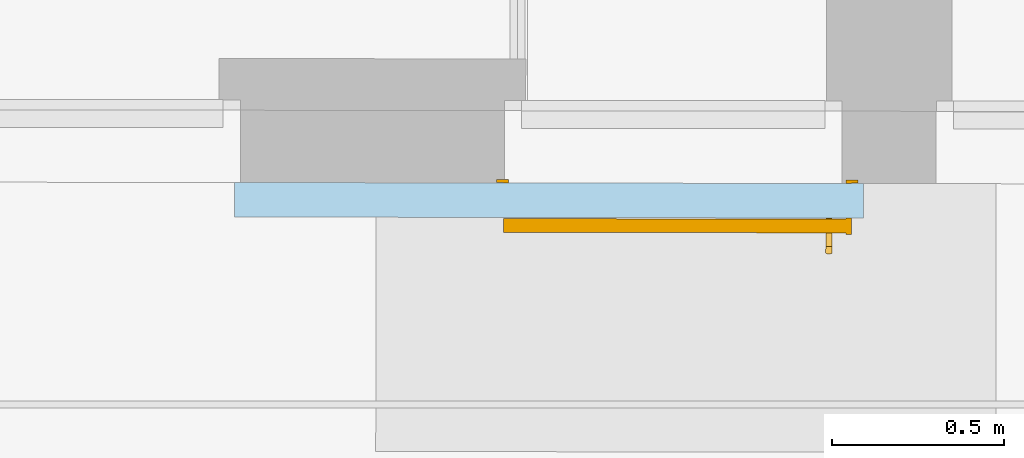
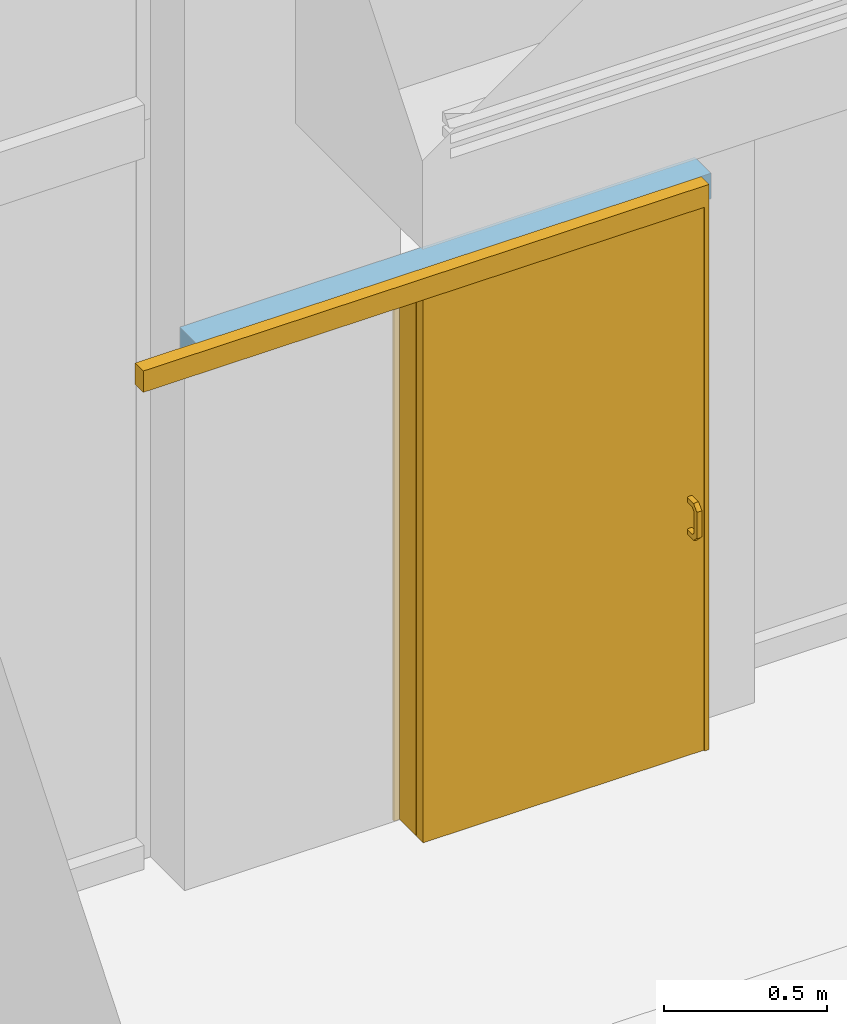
# One storey, part 47 of 128: 1 door, 1 opening, plus 1 element that does not belong to this part.
"""IFC2X3 building model written with IfcOpenShell, lengths in metres."""

from ifc_helpers import new_model, entity, si_unit, converted_unit, derived_unit, direction, frame, frame_2d, origin, place, context, subcontext, project, spatial, rectangle, extrude, faceted_brep, source, transform, mapped, material, material_list, layer, layer_set, layer_usage, type_object, type_shapes, element, fill, save


model = new_model("IFC2X3")

# Units and contexts
model_context = context("Model", 3, precision=1e-05, world=origin(), true_north=direction((6.123031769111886e-17, 1.0)))
body_context = subcontext(model_context, "Body", "Model", "MODEL_VIEW")
ifc_project = project(units=[si_unit("LENGTHUNIT", "METRE"), si_unit("AREAUNIT", "SQUARE_METRE"), converted_unit("PLANEANGLEUNIT", "DEGREE", entity("IfcPlaneAngleMeasure", 0.017453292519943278), si_unit("PLANEANGLEUNIT", "RADIAN"), dimensions=[0, 0, 0, 0, 0, 0, 0]), derived_unit("THERMALTRANSMITTANCEUNIT", [(si_unit("MASSUNIT", "GRAM", prefix="KILO"), 1), (si_unit("THERMODYNAMICTEMPERATUREUNIT", "KELVIN"), -1), (si_unit("TIMEUNIT", "SECOND"), -3)])], contexts=[model_context])

# Site, building, storey
site_placement = place(None, origin())
site = spatial("IfcSite", under=ifc_project, at=site_placement, Name="Default", CompositionType="ELEMENT")
building_placement = place(site_placement, origin())
building = spatial("IfcBuilding", under=site, at=building_placement, CompositionType="ELEMENT")
storey_placement = place(building_placement, origin())
storey = spatial("IfcBuildingStorey", under=building, at=storey_placement, Name="00_RDC CAF", CompositionType="ELEMENT", Elevation=2.4982504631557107e-13)

# Wall, opening, door
ifc_material_1 = material(Name="STR - Beton Mur")
ifc_layer = layer(ifc_material_1, 0.1)
ifc_layer_set = layer_set([ifc_layer], Name="Mur de base:M_Int_Beton_100mm")
ifc_layer_usage = layer_usage(ifc_layer_set, "AXIS2", "NEGATIVE", 0.05)
wall_type = type_object("IfcWallType", Name="Mur de base:M_Int_Beton_100mm", PredefinedType="STANDARD", material=ifc_layer_set)
wall_placement = place(storey_placement, frame((9.67451659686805, 143.90395842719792, 2.024999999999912), z_axis=(0.0, 0.0, 1.0), x_axis=(-0.9999987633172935, 0.0015726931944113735, 0.0)))
wall = element("IfcWallStandardCase", 1, at=wall_placement, inside=storey, type_object=wall_type, material=ifc_layer_usage, Name="Mur de base:M_Int_Beton_100mm", ObjectType="Mur de base:M_Int_Beton_100mm", context=body_context, shape_type="SweptSolid", body=[
    extrude(rectangle(XDim=1.8250000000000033, YDim=0.10000000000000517, at=frame_2d((0.9125000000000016, 1.6653345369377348e-16), x_axis=(-1.0, 0.0))), origin(), (0.0, 0.0, 1.0), 0.0949999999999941),
])
opening_placement = place(wall_placement, frame((1.0449999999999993, 0.04999999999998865, -2.024999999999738)))
opening = element("IfcOpeningElement", 2, at=opening_placement, cuts=wall, Name="P_Coulissante_Applique:P_Ext_Coulissante_Applique_Pleine_980x2040mm:1", ObjectType="Opening", context=body_context, shape_type="SweptSolid", body=[
    extrude(rectangle(XDim=2.039999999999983, YDim=1.0099999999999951, at=frame_2d((1.0199999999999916, 0.5049999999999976), x_axis=(1.0, 0.0))), frame((0.0, 0.0, 0.0), z_axis=(0.0, -1.0, 0.0), x_axis=(0.0, 0.0, 1.0)), (0.0, 0.0, 1.0), 0.09999999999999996),
])
ifc_material_2 = material(Name="ARC - M.Ex - Blanc")
ifc_material_3 = material(Name="ARC - M.Ex - Verre")
ifc_material_list = material_list([ifc_material_2, ifc_material_3])
door_style = type_object("IfcDoorStyle", Name="P_Coulissante_Applique:P_Ext_Coulissante_Applique_Pleine_980x2040mm", ConstructionType="NOTDEFINED", OperationType="SLIDING_TO_LEFT", ParameterTakesPrecedence=False, Sizeable=False, material=ifc_material_list)
shared_shape = source(origin(), body_context, "Body", "Brep", [
    faceted_brep([(0.944999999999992, -0.004999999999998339, 0.9487440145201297), (0.9496392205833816, -0.004999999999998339, 0.9493166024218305), (0.9539999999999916, -0.004999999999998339, 0.951000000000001), (0.9539999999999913, -0.004999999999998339, 0.9690000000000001), (0.9496392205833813, -0.004999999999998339, 0.9706833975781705), (0.9449999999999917, -0.004999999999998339, 0.9712559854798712), (0.9403607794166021, -0.004999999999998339, 0.9706833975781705), (0.9359999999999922, -0.004999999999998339, 0.9690000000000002), (0.9359999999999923, -0.004999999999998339, 0.9510000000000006), (0.9403607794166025, -0.004999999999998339, 0.9493166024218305), (0.9496392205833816, -0.004999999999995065, 0.8293166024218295), (0.9539999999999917, -0.0049999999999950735, 0.831), (0.9539999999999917, -0.004999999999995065, 0.8489999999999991), (0.9496392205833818, -0.004999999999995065, 0.8506833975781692), (0.9449999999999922, -0.004999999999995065, 0.85125598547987), (0.9403607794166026, -0.004999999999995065, 0.8506833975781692), (0.9359999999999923, -0.004999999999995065, 0.8489999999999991), (0.9359999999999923, -0.0049999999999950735, 0.8309999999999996), (0.9403607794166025, -0.004999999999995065, 0.8293166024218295), (0.944999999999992, -0.004999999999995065, 0.8287440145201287), (0.9359999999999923, 0.02627207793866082, 0.8489999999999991), (0.9359999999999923, 0.036000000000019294, 0.8587279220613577), (0.9359999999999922, 0.03600000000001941, 0.9412720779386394), (0.9359999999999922, 0.026272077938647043, 0.9510000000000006), (0.9359999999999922, 0.03372792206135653, 0.969), (0.9359999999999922, 0.05400000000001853, 0.9487279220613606), (0.9359999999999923, 0.05400000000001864, 0.8512720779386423), (0.9359999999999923, 0.033727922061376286, 0.8309999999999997), (0.9403607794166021, 0.03442520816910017, 0.9706833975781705), (0.9449999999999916, 0.03466238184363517, 0.9712559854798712), (0.9496392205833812, 0.034425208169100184, 0.9706833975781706), (0.9539999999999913, 0.033727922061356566, 0.9690000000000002), (0.9539999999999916, 0.026272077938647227, 0.951000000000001), (0.9539999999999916, 0.03600000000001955, 0.9412720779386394), (0.9539999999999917, 0.036000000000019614, 0.8587279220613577), (0.9539999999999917, 0.02627207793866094, 0.8489999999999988), (0.9539999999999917, 0.03372792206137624, 0.831), (0.9539999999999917, 0.05400000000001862, 0.8512720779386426), (0.9539999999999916, 0.054000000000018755, 0.9487279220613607), (0.9496392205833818, 0.02557479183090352, 0.9493166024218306), (0.9449999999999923, 0.02533761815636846, 0.9487440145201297), (0.9403607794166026, 0.025574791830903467, 0.9493166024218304), (0.9403607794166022, 0.05568339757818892, 0.9494252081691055), (0.9449999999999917, 0.05625598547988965, 0.9496623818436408), (0.9496392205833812, 0.05568339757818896, 0.9494252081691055), (0.9496392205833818, 0.03431660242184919, 0.9405747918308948), (0.9449999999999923, 0.03374401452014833, 0.9403376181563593), (0.9403607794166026, 0.034316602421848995, 0.9405747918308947), (0.9403607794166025, 0.05568339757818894, 0.8505747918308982), (0.9449999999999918, 0.05625598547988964, 0.8503376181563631), (0.9496392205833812, 0.05568339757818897, 0.8505747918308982), (0.949639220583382, 0.03431660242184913, 0.859425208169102), (0.9449999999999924, 0.03374401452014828, 0.8596623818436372), (0.9403607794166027, 0.034316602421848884, 0.859425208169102), (0.9403607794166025, 0.03442520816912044, 0.8293166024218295), (0.9449999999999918, 0.03466238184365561, 0.8287440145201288), (0.9496392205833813, 0.03442520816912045, 0.8293166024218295), (0.949639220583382, 0.02557479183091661, 0.8506833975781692), (0.9449999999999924, 0.02533761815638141, 0.8512559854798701), (0.9403607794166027, 0.02557479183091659, 0.8506833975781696)], [[[0, 1, 2, 3, 4, 5, 6, 7, 8, 9]], [[10, 11, 12, 13, 14, 15, 16, 17, 18, 19]], [[16, 20, 21, 22, 23, 8, 7, 24, 25, 26, 27, 17]], [[6, 28, 24, 7]], [[5, 29, 28, 6]], [[5, 4, 30, 29]], [[3, 31, 30, 4]], [[2, 32, 33, 34, 35, 12, 11, 36, 37, 38, 31, 3]], [[2, 1, 39, 32]], [[40, 39, 1, 0]], [[8, 23, 41, 9]], [[40, 0, 9, 41]], [[24, 28, 42, 25]], [[29, 43, 42, 28]], [[30, 44, 43, 29]], [[30, 31, 38, 44]], [[32, 39, 45, 33]], [[46, 45, 39, 40]], [[41, 23, 22, 47]], [[47, 46, 40, 41]], [[42, 48, 26, 25]], [[43, 49, 48, 42]], [[44, 50, 49, 43]], [[44, 38, 37, 50]], [[45, 51, 34, 33]], [[51, 45, 46, 52]], [[22, 21, 53, 47]], [[52, 46, 47, 53]], [[26, 48, 54, 27]], [[49, 55, 54, 48]], [[50, 56, 55, 49]], [[50, 37, 36, 56]], [[34, 51, 57, 35]], [[58, 57, 51, 52]], [[53, 21, 20, 59]], [[59, 58, 52, 53]], [[27, 54, 18, 17]], [[19, 18, 54, 55]], [[36, 11, 10, 56]], [[19, 55, 56, 10]], [[57, 13, 12, 35]], [[13, 57, 58, 14]], [[59, 20, 16, 15]], [[15, 14, 58, 59]]]),
    faceted_brep([(0.9496392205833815, -0.04499999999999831, 0.9706833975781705), (0.9539999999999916, -0.04499999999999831, 0.9690000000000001), (0.9539999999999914, -0.04499999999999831, 0.9510000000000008), (0.9496392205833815, -0.04499999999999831, 0.9493166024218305), (0.9449999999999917, -0.04499999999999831, 0.9487440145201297), (0.9403607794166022, -0.04499999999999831, 0.9493166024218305), (0.9359999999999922, -0.04499999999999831, 0.9510000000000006), (0.9359999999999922, -0.04499999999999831, 0.9690000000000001), (0.9403607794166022, -0.04499999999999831, 0.9706833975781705), (0.9449999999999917, -0.04499999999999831, 0.9712559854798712), (0.9496392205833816, -0.04499999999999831, 0.8506833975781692), (0.9539999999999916, -0.04499999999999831, 0.848999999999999), (0.9539999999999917, -0.04499999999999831, 0.8309999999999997), (0.9496392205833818, -0.04499999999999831, 0.8293166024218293), (0.944999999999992, -0.04499999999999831, 0.8287440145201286), (0.9403607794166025, -0.04499999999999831, 0.8293166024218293), (0.9359999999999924, -0.04499999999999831, 0.8309999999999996), (0.9359999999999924, -0.04499999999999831, 0.8489999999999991), (0.9403607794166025, -0.04499999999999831, 0.8506833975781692), (0.944999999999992, -0.04499999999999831, 0.85125598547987), (0.9496392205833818, -0.08442520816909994, 0.9706833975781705), (0.9539999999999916, -0.08372792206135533, 0.969), (0.944999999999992, -0.08466238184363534, 0.9712559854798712), (0.9403607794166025, -0.08442520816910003, 0.9706833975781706), (0.9359999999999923, -0.08372792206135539, 0.9690000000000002), (0.9359999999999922, -0.07627207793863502, 0.9510000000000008), (0.9359999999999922, -0.08599999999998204, 0.9412720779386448), (0.9359999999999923, -0.08599999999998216, 0.8587279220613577), (0.9359999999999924, -0.07627207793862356, 0.848999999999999), (0.9359999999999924, -0.0837279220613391, 0.8309999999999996), (0.9359999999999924, -0.10399999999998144, 0.8512720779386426), (0.9359999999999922, -0.10399999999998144, 0.9487279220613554), (0.9403607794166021, -0.0755747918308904, 0.9493166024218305), (0.9449999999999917, -0.07533761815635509, 0.9487440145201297), (0.9539999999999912, -0.07627207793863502, 0.9510000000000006), (0.9496392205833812, -0.07557479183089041, 0.9493166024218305), (0.9539999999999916, -0.07627207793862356, 0.848999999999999), (0.9539999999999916, -0.08599999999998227, 0.8587279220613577), (0.9539999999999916, -0.08599999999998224, 0.9412720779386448), (0.9539999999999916, -0.10399999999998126, 0.9487279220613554), (0.9539999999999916, -0.1039999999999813, 0.8512720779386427), (0.9539999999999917, -0.08372792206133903, 0.8309999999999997), (0.9496392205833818, -0.10568339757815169, 0.949425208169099), (0.9449999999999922, -0.10625598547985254, 0.949662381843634), (0.9403607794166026, -0.10568339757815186, 0.949425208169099), (0.9403607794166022, -0.08431660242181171, 0.940574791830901), (0.9449999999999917, -0.08374401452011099, 0.9403376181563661), (0.9496392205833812, -0.0843166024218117, 0.940574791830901), (0.9496392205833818, -0.10568339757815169, 0.8505747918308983), (0.9449999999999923, -0.10625598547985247, 0.8503376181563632), (0.9403607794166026, -0.10568339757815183, 0.8505747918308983), (0.9403607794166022, -0.0843166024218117, 0.8594252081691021), (0.9449999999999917, -0.08374401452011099, 0.8596623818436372), (0.9496392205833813, -0.08431660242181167, 0.8594252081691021), (0.9496392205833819, -0.08442520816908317, 0.8293166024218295), (0.9449999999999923, -0.08466238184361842, 0.8287440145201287), (0.9403607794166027, -0.08442520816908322, 0.8293166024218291), (0.9403607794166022, -0.07557479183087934, 0.8506833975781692), (0.9449999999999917, -0.07533761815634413, 0.85125598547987), (0.9496392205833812, -0.0755747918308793, 0.8506833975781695)], [[[0, 1, 2, 3, 4, 5, 6, 7, 8, 9]], [[10, 11, 12, 13, 14, 15, 16, 17, 18, 19]], [[0, 20, 21, 1]], [[9, 22, 20, 0]], [[9, 8, 23, 22]], [[7, 24, 23, 8]], [[6, 25, 26, 27, 28, 17, 16, 29, 30, 31, 24, 7]], [[6, 5, 32, 25]], [[33, 32, 5, 4]], [[2, 34, 35, 3]], [[33, 4, 3, 35]], [[11, 36, 37, 38, 34, 2, 1, 21, 39, 40, 41, 12]], [[20, 42, 39, 21]], [[22, 43, 42, 20]], [[23, 44, 43, 22]], [[23, 24, 31, 44]], [[25, 32, 45, 26]], [[46, 45, 32, 33]], [[35, 34, 38, 47]], [[47, 46, 33, 35]], [[42, 48, 40, 39]], [[43, 49, 48, 42]], [[44, 50, 49, 43]], [[44, 31, 30, 50]], [[45, 51, 27, 26]], [[51, 45, 46, 52]], [[38, 37, 53, 47]], [[52, 46, 47, 53]], [[48, 54, 41, 40]], [[49, 55, 54, 48]], [[50, 56, 55, 49]], [[50, 30, 29, 56]], [[27, 51, 57, 28]], [[58, 57, 51, 52]], [[53, 37, 36, 59]], [[59, 58, 52, 53]], [[41, 54, 13, 12]], [[14, 13, 54, 55]], [[29, 16, 15, 56]], [[14, 55, 56, 15]], [[57, 18, 17, 28]], [[18, 57, 58, 19]], [[59, 36, 11, 10]], [[10, 19, 58, 59]]]),
    faceted_brep([(1.0099999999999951, -0.049999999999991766, 2.039999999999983), (1.0099999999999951, 0.0, 2.039999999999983), (0.9949999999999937, 0.0, 2.039999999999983), (0.9949999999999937, -0.049999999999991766, 2.039999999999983), (1.0099999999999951, -0.049999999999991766, 0.0), (0.9949999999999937, -0.049999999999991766, 0.0), (0.9949999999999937, 0.0, 0.0), (1.0099999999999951, 0.0, 0.0)], [[[0, 1, 2, 3]], [[4, 5, 6, 7]], [[1, 0, 4, 7]], [[2, 1, 7, 6]], [[3, 2, 6, 5]], [[0, 3, 5, 4]]]),
    faceted_brep([(0.0, 0.10000000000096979, 0.0), (-0.020000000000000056, 0.10000000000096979, 0.0), (-0.020000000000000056, 0.10800000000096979, 0.0), (0.014999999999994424, 0.10800000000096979, 0.0), (0.014999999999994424, 0.0, 0.0), (0.0, 0.0, 0.0), (0.0, 0.10000000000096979, 2.039999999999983), (1.0099999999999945, 0.10000000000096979, 2.039999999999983), (1.0099999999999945, 0.10000000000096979, 0.0), (1.0299999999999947, 0.10000000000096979, 0.0), (1.0299999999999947, 0.10000000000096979, 2.059999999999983), (-0.020000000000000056, 0.10000000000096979, 2.059999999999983), (-0.020000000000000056, 0.10800000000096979, 2.059999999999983), (1.0299999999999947, 0.10800000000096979, 2.059999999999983), (1.0299999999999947, 0.10800000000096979, 0.0), (0.9950000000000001, 0.10800000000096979, 0.0), (0.9950000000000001, 0.10800000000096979, 2.0249999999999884), (0.01499999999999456, 0.10800000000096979, 2.0249999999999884), (0.01499999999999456, 0.0, 2.0249999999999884), (0.9950000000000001, 0.0, 2.0249999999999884), (0.9950000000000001, 0.0, 0.0), (1.0099999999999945, 0.0, 0.0), (1.0099999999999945, 0.0, 2.039999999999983), (0.0, 0.0, 2.039999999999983)], [[[0, 1, 2, 3, 4, 5]], [[1, 0, 6, 7, 8, 9, 10, 11]], [[2, 1, 11, 12]], [[3, 2, 12, 13, 14, 15, 16, 17]], [[4, 3, 17, 18]], [[5, 4, 18, 19, 20, 21, 22, 23]], [[0, 5, 23, 6]], [[12, 11, 10, 13]], [[18, 17, 16, 19]], [[6, 23, 22, 7]], [[8, 21, 20, 15, 14, 9]], [[13, 10, 9, 14]], [[19, 16, 15, 20]], [[7, 22, 21, 8]]]),
    faceted_brep([(0.9949999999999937, -0.04499999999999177, 2.039999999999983), (0.9949999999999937, -0.004999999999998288, 2.039999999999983), (0.0, -0.004999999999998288, 2.039999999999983), (0.0, -0.04499999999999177, 2.039999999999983), (0.9949999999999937, -0.04499999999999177, 0.0), (0.0, -0.04499999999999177, 0.0), (0.0, -0.004999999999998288, 0.0), (0.9949999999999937, -0.004999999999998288, 0.0)], [[[0, 1, 2, 3]], [[4, 5, 6, 7]], [[1, 0, 4, 7]], [[2, 1, 7, 6]], [[3, 2, 6, 5]], [[0, 3, 5, 4]]]),
    faceted_brep([(1.0099999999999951, -0.04999999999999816, 2.119999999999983), (-0.9950000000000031, -0.04999999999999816, 2.119999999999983), (-0.9950000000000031, -0.04999999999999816, 2.039999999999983), (1.0099999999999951, -0.04999999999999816, 2.039999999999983), (1.0099999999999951, 0.0, 2.119999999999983), (1.0099999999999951, 0.0, 2.039999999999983), (-0.9950000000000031, 0.0, 2.039999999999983), (-0.9950000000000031, 0.0, 2.119999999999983)], [[[0, 1, 2, 3]], [[4, 5, 6, 7]], [[1, 0, 4, 7]], [[2, 1, 7, 6]], [[3, 2, 6, 5]], [[0, 3, 5, 4]]]),
])
type_shapes(door_style, [shared_shape])
door_placement = place(opening_placement, frame((7.734232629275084e-05, -0.0016435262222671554, 0.0), z_axis=(0.0, 0.0, 1.0), x_axis=(-1.0, 0.0, 0.0)))
door = element("IfcDoor", 3, at=door_placement, inside=storey, type_object=door_style, material=ifc_material_list, Name="P_Coulissante_Applique:P_Ext_Coulissante_Applique_Pleine_980x2040mm", ObjectType="P_Coulissante_Applique:P_Ext_Coulissante_Applique_Pleine_980x2040mm", OverallHeight=2.039999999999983, OverallWidth=1.0099999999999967, context=body_context, shape_type="MappedRepresentation", body=[
    mapped(shared_shape, transform((0.0, 0.0, 0.0), scale=1.0)),
])
fill(opening, door)

save(model, "model.ifc")
